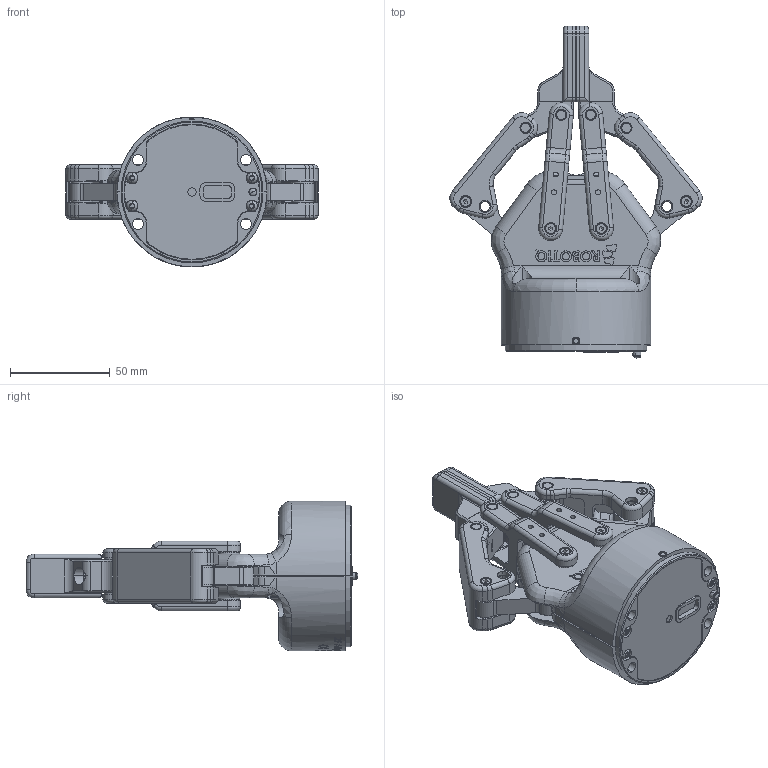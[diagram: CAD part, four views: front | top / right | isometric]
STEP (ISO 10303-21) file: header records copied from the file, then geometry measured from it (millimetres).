
FILE_DESCRIPTION (( 'STEP AP214' ), '1' );
FILE_NAME ('C-A01-85-CLOSED.STEP', '2018-10-02T16:54:41', ( '' ), ( '' ), 'SwSTEP 2.0', 'SolidWorks 2017', '' );
FILE_SCHEMA (( 'AUTOMOTIVE_DESIGN' ));
Length unit declared in the file: millimetre
Products named in the file (1): C-A01-85-CLOSED
Bounding box: 126.35 x 166.22 x 75 mm (x, y, z)
Volume: 312247.9 mm3; surface area: 78994.4 mm2
Topology: 15 solids, 15 shells, 3212 faces, 8385 edges, 5413 vertices
Faces by surface type: bspline 1030, plane 1026, cylinder 894, cone 118, torus 106, sphere 38
Full cylindrical faces by diameter (mm): 2.8 x1, 3.4 x4, 4.199 x2, 5.3 x2
Entity records: 216299 total; most frequent: CARTESIAN_POINT 110989, ORIENTED_EDGE 16722, DIRECTION 12674, EDGE_CURVE 8361, VERTEX_POINT 5413, AXIS2_PLACEMENT_3D 4473, VECTOR 3728, LINE 3728
